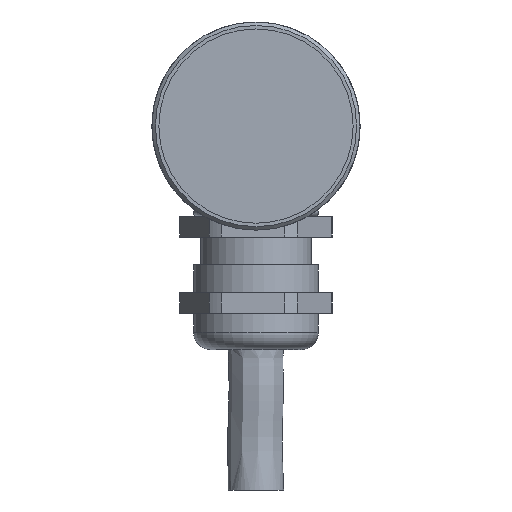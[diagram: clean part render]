
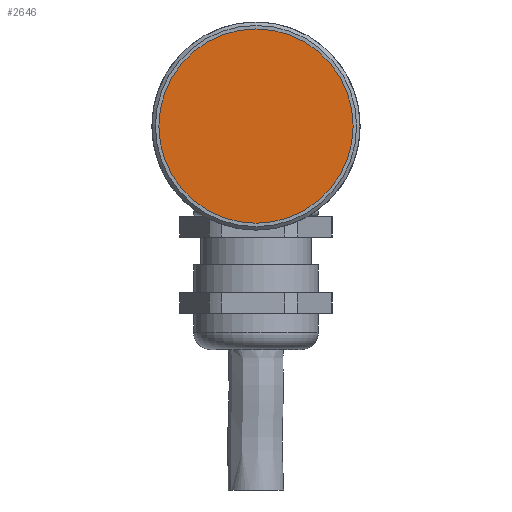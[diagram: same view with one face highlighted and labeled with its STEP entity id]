
A CAD part, left-side view. The second image highlights one B-rep face of the part: STEP entity #2646.
In plain terms, the highlighted planar face has unit normal (-1, 0, 0).
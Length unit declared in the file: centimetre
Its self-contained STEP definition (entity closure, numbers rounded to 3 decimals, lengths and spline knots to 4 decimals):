
#909=PLANE('',#2804);
#974=CIRCLE('',#2802,1.4);
#1068=VERTEX_POINT('',#3679);
#1356=EDGE_CURVE('',#1068,#1068,#974,.T.);
#1696=ORIENTED_EDGE('',*,*,#1356,.T.);
#2310=EDGE_LOOP('',(#1696));
#2483=FACE_BOUND('',#2310,.T.);
#2646=ADVANCED_FACE('',(#2483),#909,.T.);
#2802=AXIS2_PLACEMENT_3D('',#3678,#3011,#3012);
#2804=AXIS2_PLACEMENT_3D('',#3682,#3015,$);
#3011=DIRECTION('',(-1.,0.,0.));
#3012=DIRECTION('',(0.,0.,1.4));
#3015=DIRECTION('',(-1.,0.,0.));
#3678=CARTESIAN_POINT('',(0.1,0.,0.));
#3679=CARTESIAN_POINT('',(0.1,0.,1.4));
#3682=CARTESIAN_POINT('',(0.1,0.,0.));
